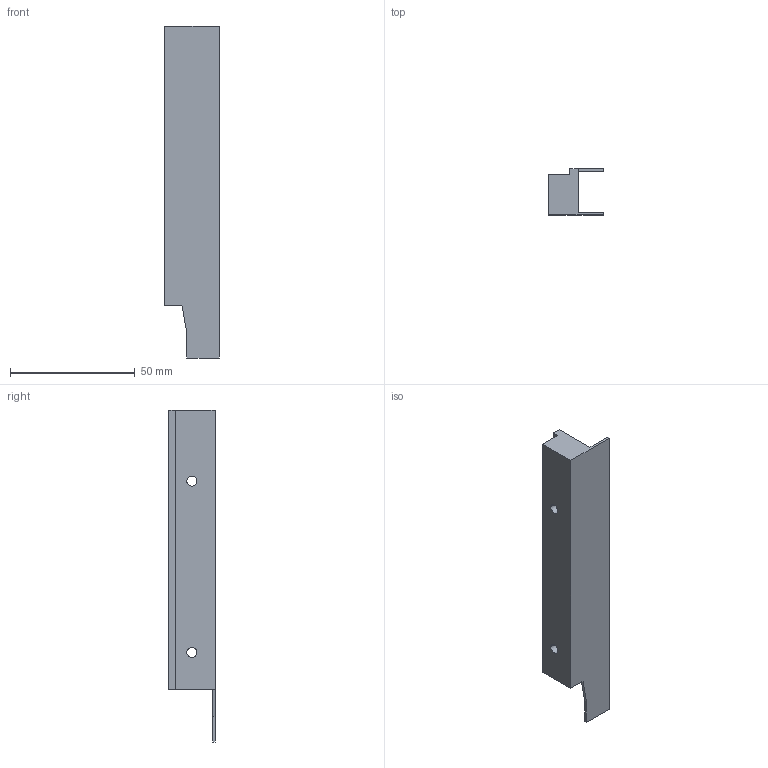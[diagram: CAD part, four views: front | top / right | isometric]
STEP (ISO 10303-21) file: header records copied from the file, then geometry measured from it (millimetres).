
FILE_DESCRIPTION (( 'STEP AP214' ), '1' );
FILE_NAME ('DWD-XP_Holzrueckwandadapter links H150 offen.step', '2010-09-27T15:14:17', ( 'grass' ), ( '' ), 'SwSTEP 2.0', 'SolidWorks 2010', '' );
FILE_SCHEMA (( 'AUTOMOTIVE_DESIGN' ));
Length unit declared in the file: millimetre
Products named in the file (1): DWD-XP_Holzrueckwandadapter links H150 offen
Bounding box: 22 x 18.5 x 133 mm (x, y, z)
Volume: 23849.7 mm3; surface area: 11376.9 mm2
Topology: 1 solids, 1 shells, 25 faces, 69 edges, 46 vertices
Faces by surface type: plane 17, cylinder 8
Entity records: 849 total; most frequent: CARTESIAN_POINT 141, ORIENTED_EDGE 138, DIRECTION 137, EDGE_CURVE 69, VECTOR 53, LINE 53, VERTEX_POINT 46, AXIS2_PLACEMENT_3D 42
